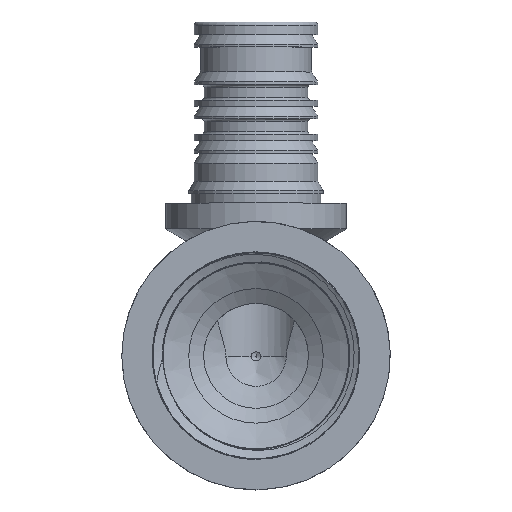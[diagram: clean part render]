
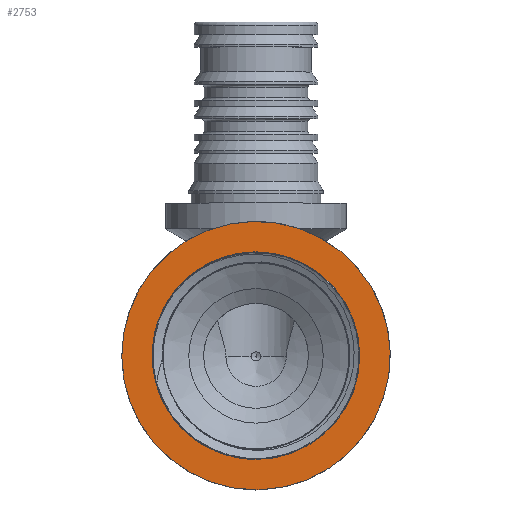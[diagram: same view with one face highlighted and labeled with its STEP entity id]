
A CAD part, top view. The second image highlights one B-rep face of the part: STEP entity #2753.
In plain terms, the highlighted planar face has unit normal (0, 0, 1).
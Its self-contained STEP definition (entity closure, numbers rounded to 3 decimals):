
#143=FACE_BOUND('',#771,.T.);
#538=PLANE('',#2947);
#617=FACE_OUTER_BOUND('',#770,.T.);
#770=EDGE_LOOP('',(#1919,#1920));
#771=EDGE_LOOP('',(#1921,#1922));
#944=CIRCLE('',#2948,21.5);
#945=CIRCLE('',#2949,21.5);
#946=CIRCLE('',#2950,16.625);
#947=CIRCLE('',#2951,16.625);
#1143=VERTEX_POINT('',#4140);
#1144=VERTEX_POINT('',#4141);
#1145=VERTEX_POINT('',#4144);
#1146=VERTEX_POINT('',#4145);
#1461=EDGE_CURVE('',#1143,#1144,#944,.T.);
#1462=EDGE_CURVE('',#1144,#1143,#945,.T.);
#1463=EDGE_CURVE('',#1145,#1146,#946,.T.);
#1464=EDGE_CURVE('',#1146,#1145,#947,.T.);
#1919=ORIENTED_EDGE('',*,*,#1461,.F.);
#1920=ORIENTED_EDGE('',*,*,#1462,.F.);
#1921=ORIENTED_EDGE('',*,*,#1463,.T.);
#1922=ORIENTED_EDGE('',*,*,#1464,.T.);
#2753=ADVANCED_FACE('',(#617,#143),#538,.T.);
#2947=AXIS2_PLACEMENT_3D('',#4139,#3293,#3294);
#2948=AXIS2_PLACEMENT_3D('',#4142,#3295,#3296);
#2949=AXIS2_PLACEMENT_3D('',#4143,#3297,#3298);
#2950=AXIS2_PLACEMENT_3D('',#4146,#3299,#3300);
#2951=AXIS2_PLACEMENT_3D('',#4147,#3301,#3302);
#3293=DIRECTION('center_axis',(0.,0.,1.));
#3294=DIRECTION('ref_axis',(1.,0.,0.));
#3295=DIRECTION('center_axis',(0.,0.,-1.));
#3296=DIRECTION('ref_axis',(1.,0.,0.));
#3297=DIRECTION('center_axis',(0.,0.,-1.));
#3298=DIRECTION('ref_axis',(1.,0.,0.));
#3299=DIRECTION('center_axis',(0.,0.,-1.));
#3300=DIRECTION('ref_axis',(1.,0.,0.));
#3301=DIRECTION('center_axis',(0.,0.,-1.));
#3302=DIRECTION('ref_axis',(1.,0.,0.));
#4139=CARTESIAN_POINT('Origin',(0.,-32.,38.5));
#4140=CARTESIAN_POINT('',(0.786,-74.986,38.5));
#4141=CARTESIAN_POINT('',(0.,-75.,38.5));
#4142=CARTESIAN_POINT('Origin',(0.,-53.5,38.5));
#4143=CARTESIAN_POINT('Origin',(0.,-53.5,38.5));
#4144=CARTESIAN_POINT('',(0.,-36.875,38.5));
#4145=CARTESIAN_POINT('',(0.,-70.125,38.5));
#4146=CARTESIAN_POINT('Origin',(0.,-53.5,38.5));
#4147=CARTESIAN_POINT('Origin',(0.,-53.5,38.5));
